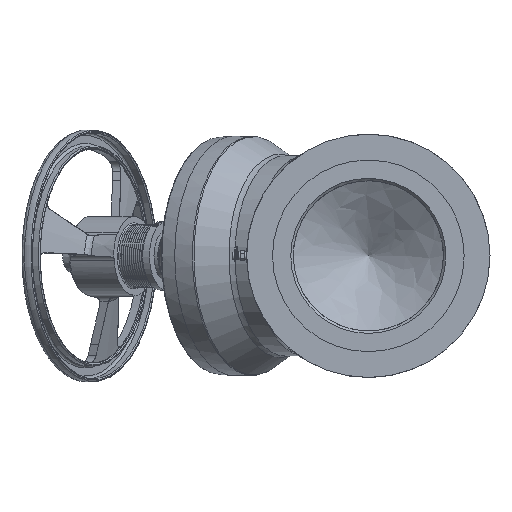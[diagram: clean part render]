
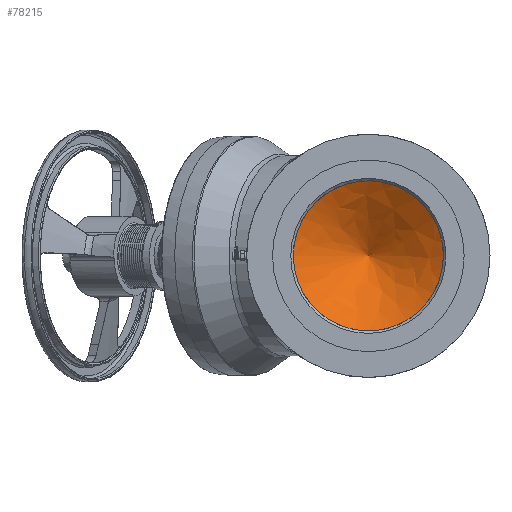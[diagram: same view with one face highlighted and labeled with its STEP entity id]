
A CAD part, left-side view. The second image highlights one B-rep face of the part: STEP entity #78215.
In plain terms, the highlighted free-form (B-spline) face has degree [1, 2] with [2, 9] control points.
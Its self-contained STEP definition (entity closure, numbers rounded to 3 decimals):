
#78178=CARTESIAN_POINT('',(-666.861,-27.876,10.));
#78179=CARTESIAN_POINT('',(-591.754,-152.876,10.));
#78180=CARTESIAN_POINT('',(-666.861,-27.876,-115.));
#78181=CARTESIAN_POINT('',(-591.754,-152.876,10.));
#78182=CARTESIAN_POINT('',(-666.861,-152.876,-115.));
#78183=CARTESIAN_POINT('',(-591.754,-152.876,10.));
#78184=CARTESIAN_POINT('',(-666.861,-277.876,-115.));
#78185=CARTESIAN_POINT('',(-591.754,-152.876,10.));
#78186=CARTESIAN_POINT('',(-666.861,-277.876,10.));
#78187=CARTESIAN_POINT('',(-591.754,-152.876,10.));
#78188=CARTESIAN_POINT('',(-666.861,-277.876,135.));
#78189=CARTESIAN_POINT('',(-591.754,-152.876,10.));
#78190=CARTESIAN_POINT('',(-666.861,-152.876,135.));
#78191=CARTESIAN_POINT('',(-591.754,-152.876,10.));
#78192=CARTESIAN_POINT('',(-666.861,-27.876,135.));
#78193=CARTESIAN_POINT('',(-591.754,-152.876,10.));
#78194=CARTESIAN_POINT('',(-666.861,-27.876,10.));
#78195=CARTESIAN_POINT('',(-591.754,-152.876,10.));
#78203=(BOUNDED_SURFACE()B_SPLINE_SURFACE(1,2,((#78178,#78180,#78182,#78184,#78186,#78188,#78190,#78192,#78194),(#78179,#78181,#78183,#78185,#78187,#78189,#78191,#78193,#78195)),.UNSPECIFIED.,.F.,.T.,.U.)B_SPLINE_SURFACE_WITH_KNOTS((2,2),(3,2,2,2,3),(-1.167,1.167),(0.0,98.175,196.35,294.524,392.699),.UNSPECIFIED.)GEOMETRIC_REPRESENTATION_ITEM()RATIONAL_B_SPLINE_SURFACE(((1.0,0.707,1.0,0.707,1.0,0.707,1.0,0.707,1.0),(1.0,0.707,1.0,0.707,1.0,0.707,1.0,0.707,1.0)))REPRESENTATION_ITEM('')SURFACE());
#78204=CARTESIAN_POINT('',(-666.861,-277.876,10.));
#78205=VERTEX_POINT('',#78204);
#78206=CARTESIAN_POINT('',(-666.861,-152.876,10.));
#78207=DIRECTION('',(-1.0,0.0,0.0));
#78208=DIRECTION('',(0.0,-1.0,0.0));
#78209=AXIS2_PLACEMENT_3D('',#78206,#78207,#78208);
#78210=CIRCLE('',#78209,125.0);
#78211=EDGE_CURVE('',#78205,#78205,#78210,.T.);
#78212=ORIENTED_EDGE('',*,*,#78211,.T.);
#78213=EDGE_LOOP('',(#78212));
#78214=FACE_OUTER_BOUND('',#78213,.T.);
#78215=ADVANCED_FACE('',(#78214),#78203,.F.);
